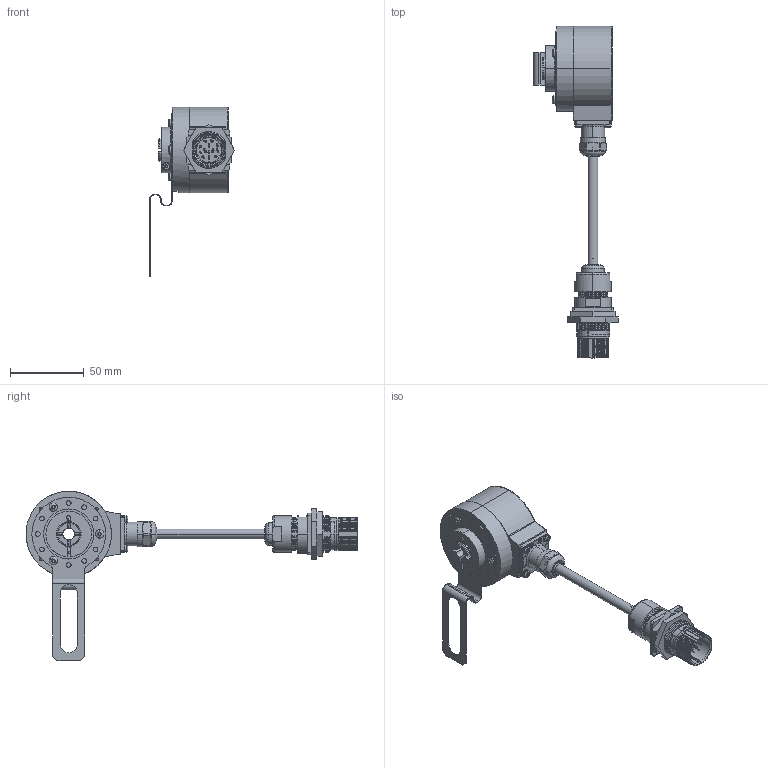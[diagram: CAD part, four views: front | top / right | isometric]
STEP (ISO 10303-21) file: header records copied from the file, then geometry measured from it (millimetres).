
FILE_DESCRIPTION (( 'STEP AP203' ), '1' );
FILE_NAME ('K58I.OXX.XXXXX.XH24508.6XR14.XXXX.step', '2025-12-08T14:52:10', ( '' ), ( '' ), 'SwSTEP 2.0', 'SolidWorks 2021', '' );
FILE_SCHEMA (( 'CONFIG_CONTROL_DESIGN' ));
Length unit declared in the file: millimetre
Products named in the file (1): K58I.OXX.XXXXX.XH24508.6XR14.XXXX
Bounding box: 57.66 x 225.35 x 115 mm (x, y, z)
Volume: 139608 mm3; surface area: 66597 mm2
Topology: 34 solids, 34 shells, 2057 faces, 5259 edges, 3359 vertices
Faces by surface type: cylinder 807, plane 608, cone 397, bspline 130, torus 73, sphere 42
Entity records: 71030 total; most frequent: CARTESIAN_POINT 22214, ORIENTED_EDGE 10442, DIRECTION 9967, EDGE_CURVE 5221, AXIS2_PLACEMENT_3D 3924, VERTEX_POINT 3359, EDGE_LOOP 2264, LINE 2119
